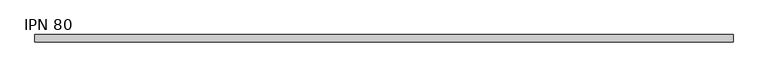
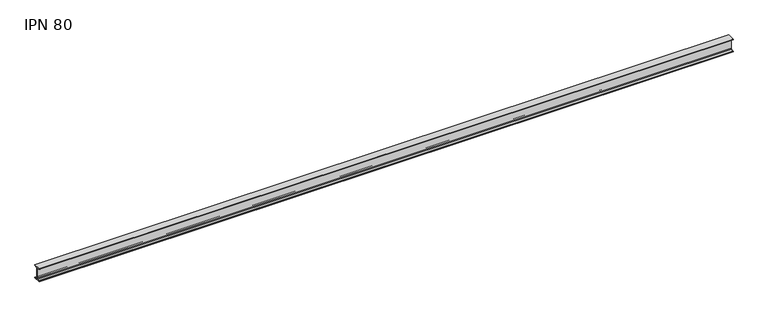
"""IFC4 building model written with IfcOpenShell, lengths in millimetres: beam geometry, IPN - Secciones en I con alas cónicas : IPN 80."""

import ifcopenshell
import ifcopenshell.guid

model = None  # the IFC model being written
_history = None  # IfcOwnerHistory: only IFC2X3 demands one
_inside = {}  # id of a spatial element -> (the spatial element, [elements in it])
_under = {}  # id of a project, library or spatial element -> (it, [spatial elements below it])
_declared = {}  # id of a project -> (the project, [libraries it declares])
_typed = {}  # id of a type object -> (the type object, [elements of that type])
_made_of = {}  # id of a material, layer set ... -> (it, [elements and type objects made of it])


def new_model(schema):
    """Start an empty IFC model of exactly this schema.

    Asked for "IFC4X3", IfcOpenShell would pick the latest addendum, in which some entities
    have other attributes; the version numbers below select the first issue.
    IFC2X3 requires an IfcOwnerHistory on every rooted entity: one is made here for all.
    """
    global model, _history
    if schema == "IFC4X3":
        model = ifcopenshell.file(schema_version=(4, 3, 0, 0))
    else:
        model = ifcopenshell.file(schema=schema)
    _inside.clear()
    _under.clear()
    _declared.clear()
    _typed.clear()
    _made_of.clear()
    _history = None
    if model.schema == "IFC2X3":
        org = make("IfcOrganization", Name="unknown")
        user = make(
            "IfcPersonAndOrganization",
            ThePerson=make("IfcPerson", FamilyName="unknown"),
            TheOrganization=org,
        )
        app = make(
            "IfcApplication",
            ApplicationDeveloper=org,
            Version="unknown",
            ApplicationFullName="unknown",
            ApplicationIdentifier="unknown",
        )
        _history = make(
            "IfcOwnerHistory",
            OwningUser=user,
            OwningApplication=app,
            ChangeAction="ADDED",
            CreationDate=0,
        )
    return model


def make(cls, **values):
    """One entity of the class cls with the attributes given. An attribute that is None is left unset."""
    return model.create_entity(
        cls, **{name: value for name, value in values.items() if value is not None}
    )


def rooted(cls, **values):
    """An entity with a GlobalId (a new one), such as an element, a storey or a relation."""
    return make(cls, GlobalId=ifcopenshell.guid.new(), OwnerHistory=_history, **values)


def si_unit(unit_type, name, prefix=None):
    """IfcSIUnit, for example si_unit("LENGTHUNIT", "METRE", prefix="MILLI")."""
    return make("IfcSIUnit", UnitType=unit_type, Prefix=prefix, Name=name)


def assignment(units):
    """IfcUnitAssignment: the units of a project."""
    return None if units is None else make("IfcUnitAssignment", Units=units)


def point(xyz):
    """IfcCartesianPoint."""
    return None if xyz is None else make("IfcCartesianPoint", Coordinates=xyz)


def direction(xyz):
    """IfcDirection."""
    return None if xyz is None else make("IfcDirection", DirectionRatios=xyz)


def frame(location, z_axis=None, x_axis=None):
    """IfcAxis2Placement3D, a coordinate frame: its origin and axes. An axis left out is left unset."""
    return make(
        "IfcAxis2Placement3D",
        Location=point(location),
        Axis=direction(z_axis),
        RefDirection=direction(x_axis),
    )


def frame_2d(location, x_axis=None):
    """IfcAxis2Placement2D, a coordinate frame in the plane: its origin and x axis."""
    return make(
        "IfcAxis2Placement2D", Location=point(location), RefDirection=direction(x_axis)
    )


def origin():
    """The frame at (0, 0, 0) with its axes left unset."""
    return frame((0.0, 0.0, 0.0))


def place(relative_to, where):
    """IfcLocalPlacement: puts the frame where relative to a parent placement (None: the world)."""
    return make(
        "IfcLocalPlacement", PlacementRelTo=relative_to, RelativePlacement=where
    )


def context(
    kind, dimensions, precision=None, world=None, true_north=None, identifier=None
):
    """IfcGeometricRepresentationContext, for example the 3D "Model" context."""
    return make(
        "IfcGeometricRepresentationContext",
        ContextIdentifier=identifier,
        ContextType=kind,
        CoordinateSpaceDimension=dimensions,
        Precision=precision,
        WorldCoordinateSystem=world,
        TrueNorth=true_north,
    )


def project(units=None, contexts=None):
    """IfcProject with its units and contexts."""
    return rooted(
        "IfcProject",
        Name="project",
        RepresentationContexts=contexts,
        UnitsInContext=assignment(units),
    )


def spatial(cls, under=None, at=None, **own):
    """A site, building, storey or space (cls), placed at a placement, below another one or the project."""
    s = rooted(cls, ObjectPlacement=at, **own)
    if under is not None:
        _under.setdefault(under.id(), (under, []))[1].append(s)
    return s


def polyline(points):
    """IfcPolyline through the points."""
    return make("IfcPolyline", Points=[point(p) for p in points])


def circle_curve(where, radius):
    """IfcCircle in the frame where."""
    return make("IfcCircle", Position=where, Radius=radius)


def trimmed(basis, trim1, trim2, sense, master):
    """IfcTrimmedCurve: the piece of a basis curve between two trims."""
    return make(
        "IfcTrimmedCurve",
        BasisCurve=basis,
        Trim1=trim1,
        Trim2=trim2,
        SenseAgreement=sense,
        MasterRepresentation=master,
    )


def segment(curve, same_sense, transition):
    """IfcCompositeCurveSegment."""
    return make(
        "IfcCompositeCurveSegment",
        Transition=transition,
        SameSense=same_sense,
        ParentCurve=curve,
    )


def composite_curve(segments, self_intersect=None):
    """IfcCompositeCurve: segments joined end to end."""
    return make("IfcCompositeCurve", Segments=segments, SelfIntersect=self_intersect)


def outline(outer, holes=None, kind="AREA"):
    """IfcArbitraryClosedProfileDef: a profile drawn as a closed curve; with holes, ...WithVoids."""
    if holes is None:
        return make("IfcArbitraryClosedProfileDef", ProfileType=kind, OuterCurve=outer)
    return make(
        "IfcArbitraryProfileDefWithVoids",
        ProfileType=kind,
        OuterCurve=outer,
        InnerCurves=holes,
    )


def extrude(swept, where, along, depth):
    """IfcExtrudedAreaSolid: the profile swept, set in the frame where, extruded along a direction by depth."""
    return make(
        "IfcExtrudedAreaSolid",
        SweptArea=swept,
        Position=where,
        ExtrudedDirection=direction(along),
        Depth=depth,
    )


def shape(context_of_items, identifier, shape_type, items):
    """IfcShapeRepresentation: the items that make up one representation, for example the "Body"."""
    return make(
        "IfcShapeRepresentation",
        ContextOfItems=context_of_items,
        RepresentationIdentifier=identifier,
        RepresentationType=shape_type,
        Items=items,
    )


def source(mapping_origin, context_of_items, identifier, shape_type, items):
    """IfcRepresentationMap: a shape defined once, which mapped items show again and again."""
    return make(
        "IfcRepresentationMap",
        MappingOrigin=mapping_origin,
        MappedRepresentation=shape(context_of_items, identifier, shape_type, items),
    )


def transform(
    local_origin,
    x_axis=None,
    y_axis=None,
    z_axis=None,
    scale=None,
    scale2=None,
    scale3=None,
    uniform=True,
):
    """IfcCartesianTransformationOperator3D, or its non-uniform kind. x_axis, y_axis, z_axis: its Axis1, 2, 3."""
    if uniform:
        return make(
            "IfcCartesianTransformationOperator3D",
            Axis1=direction(x_axis),
            Axis2=direction(y_axis),
            LocalOrigin=point(local_origin),
            Scale=scale,
            Axis3=direction(z_axis),
        )
    return make(
        "IfcCartesianTransformationOperator3DnonUniform",
        Axis1=direction(x_axis),
        Axis2=direction(y_axis),
        LocalOrigin=point(local_origin),
        Scale=scale,
        Axis3=direction(z_axis),
        Scale2=scale2,
        Scale3=scale3,
    )


def mapped(mapping_source, mapping_target):
    """IfcMappedItem: shows the shape of a source again, moved by a transform."""
    return make(
        "IfcMappedItem", MappingSource=mapping_source, MappingTarget=mapping_target
    )


def made_of(thing, what):
    """Note that an element or type object is made of a material, layer set ...; save() writes the relation."""
    if what is not None:
        _made_of.setdefault(what.id(), (what, []))[1].append(thing)
    return thing


def element(
    cls,
    number,
    at=None,
    inside=None,
    cuts=None,
    type_object=None,
    material=None,
    context=None,
    identifier="Body",
    shape_type=None,
    held_by="IfcProductDefinitionShape",
    body=None,
    shapes=None,
    **own,
):
    """One element of the class cls, such as IfcWall. Its Tag is "e" and its number.

    at: its placement. inside: the storey or other place that contains it. cuts: it is an
    opening in that element (IfcRelVoidsElement). A single representation is given by context,
    identifier, shape_type and body (its items); several are given by shapes. held_by: the class
    of the entity that holds the representations. save() writes the other relations.
    """
    e = rooted(cls, Tag="e%d" % number, ObjectPlacement=at, **own)
    if body is not None:
        shapes = [shape(context, identifier, shape_type, body)]
    if shapes is not None:
        e.Representation = make(held_by, Representations=shapes)
    if inside is not None:
        _inside.setdefault(inside.id(), (inside, []))[1].append(e)
    if cuts is not None:
        rooted(
            "IfcRelVoidsElement", RelatingBuildingElement=cuts, RelatedOpeningElement=e
        )
    if type_object is not None:
        _typed.setdefault(type_object.id(), (type_object, []))[1].append(e)
    return made_of(e, material)


def aggregate(whole, parts):
    """IfcRelAggregates: a whole, such as a stair, and the parts it consists of."""
    return rooted("IfcRelAggregates", RelatingObject=whole, RelatedObjects=parts)


def save(model, path):
    """Write the relations noted so far, then the file.

    IfcRelAggregates (storeys below a building ...), IfcRelContainedInSpatialStructure (elements
    in a storey), IfcRelDefinesByType, IfcRelAssociatesMaterial and IfcRelDeclares: one each for
    every whole, place, type object, material and project.
    """
    for whole, parts in _under.values():
        aggregate(whole, parts)
    for where, things in _inside.values():
        rooted(
            "IfcRelContainedInSpatialStructure",
            RelatedElements=things,
            RelatingStructure=where,
        )
    for kind, things in _typed.values():
        rooted("IfcRelDefinesByType", RelatedObjects=things, RelatingType=kind)
    for what, things in _made_of.values():
        rooted("IfcRelAssociatesMaterial", RelatedObjects=things, RelatingMaterial=what)
    for by, libraries in _declared.values():
        rooted("IfcRelDeclares", RelatingContext=by, RelatedDefinitions=libraries)
    model.write(path)


def ipn_80_43449075(model_context):
    return source(origin(), model_context, "Body", "SweptSolid", [
        extrude(outline(composite_curve([segment(polyline([(21.0, 40.0), (21.0, 37.5704306)]), True, "CONTINUOUS"), segment(trimmed(circle_curve(frame_2d((18.7, 37.5704306)), 2.3), [point((21.0, 37.5704306))], [point((19.01889, 35.2926446))], False, "CARTESIAN"), True, "CONTINUOUS"), segment(polyline([(19.01889, 35.2926446), (5.3092734, 33.3732983)]), True, "CONTINUOUS"), segment(trimmed(circle_curve(frame_2d((5.85, 29.5109655)), 3.9), [point((5.3092734, 33.3732983))], [point((1.95, 29.5109655))], True, "CARTESIAN"), True, "CONTINUOUS"), segment(polyline([(1.95, 29.5109655), (1.95, -29.5109655)]), True, "CONTINUOUS"), segment(trimmed(circle_curve(frame_2d((5.85, -29.5109655)), 3.9), [point((1.95, -29.5109655))], [point((5.3092734, -33.3732983))], True, "CARTESIAN"), True, "CONTINUOUS"), segment(polyline([(5.3092734, -33.3732983), (19.01889, -35.2926446)]), True, "CONTINUOUS"), segment(trimmed(circle_curve(frame_2d((18.7, -37.5704306)), 2.3), [point((19.01889, -35.2926446))], [point((21.0, -37.5704306))], False, "CARTESIAN"), True, "CONTINUOUS"), segment(polyline([(21.0, -37.5704306), (21.0, -40.0), (-21.0, -40.0), (-21.0, -37.5704306)]), True, "CONTINUOUS"), segment(trimmed(circle_curve(frame_2d((-18.7, -37.5704306)), 2.3), [point((-21.0, -37.5704306))], [point((-19.01889, -35.2926446))], False, "CARTESIAN"), True, "CONTINUOUS"), segment(polyline([(-19.01889, -35.2926446), (-5.3092734, -33.3732983)]), True, "CONTINUOUS"), segment(trimmed(circle_curve(frame_2d((-5.85, -29.5109655)), 3.9), [point((-5.3092734, -33.3732983))], [point((-1.95, -29.5109655))], True, "CARTESIAN"), True, "CONTINUOUS"), segment(polyline([(-1.95, -29.5109655), (-1.95, 29.5109655)]), True, "CONTINUOUS"), segment(trimmed(circle_curve(frame_2d((-5.85, 29.5109655)), 3.9), [point((-1.95, 29.5109655))], [point((-5.3092734, 33.3732983))], True, "CARTESIAN"), True, "CONTINUOUS"), segment(polyline([(-5.3092734, 33.3732983), (-19.01889, 35.2926446)]), True, "CONTINUOUS"), segment(trimmed(circle_curve(frame_2d((-18.7, 37.5704306)), 2.3), [point((-19.01889, 35.2926446))], [point((-21.0, 37.5704306))], False, "CARTESIAN"), True, "CONTINUOUS"), segment(polyline([(-21.0, 37.5704306), (-21.0, 40.0), (21.0, 40.0)]), True, "CONTINUOUS")], self_intersect=False)), frame((-2038.0, 0.0, 0.0), z_axis=(1.0, 0.0, 0.0), x_axis=(0.0, 1.0, 0.0)), (0.0, 0.0, 1.0), 4053.8),
    ])


if __name__ == "__main__":
    model = new_model("IFC4")
    model_context = context("Model", 3, world=origin())
    ifc_project = project(units=[si_unit("LENGTHUNIT", "METRE", prefix="MILLI")], contexts=[model_context])
    site = spatial("IfcSite", under=ifc_project)
    building = spatial("IfcBuilding", under=site)
    placement = place(None, origin())
    ipn_80_shape = ipn_80_43449075(model_context)
    element("IfcBeam", 1, ObjectType="IPN - Secciones en I con alas cónicas : IPN 80", at=placement, inside=building, context=model_context, shape_type="MappedRepresentation", body=[
        mapped(ipn_80_shape, transform((0.0, 0.0, 0.0), x_axis=(1.0, 0.0, 0.0), y_axis=(0.0, 1.0, 0.0), z_axis=(0.0, 0.0, 1.0))),
    ])
    save(model, "model.ifc")
